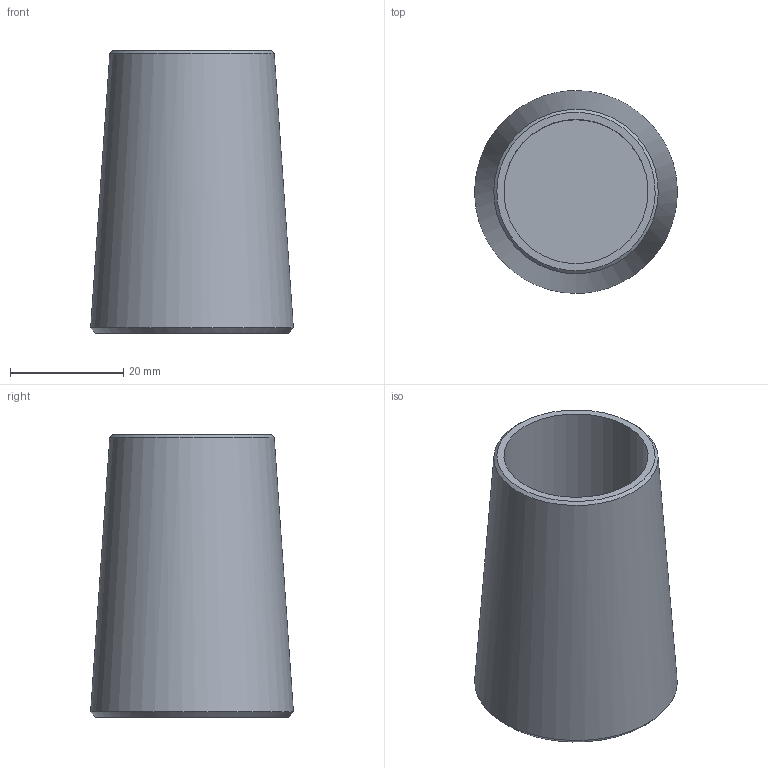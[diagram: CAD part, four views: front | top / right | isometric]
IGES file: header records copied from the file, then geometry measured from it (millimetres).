
Global section: file name: 520-024-KMU; native system: Autodesk Inventor 2016; preprocessor: unknown; author: BAYR; date: 20200618.122543; units: millimetre
Bounding box: 35.85 x 35.86 x 50 mm (x, y, z)
Volume: 22183.2 mm3; surface area: 9746.3 mm2
Topology: 1 solids, 1 shells, 7 faces, 14 edges, 10 vertices
Faces by surface type: bspline 7
